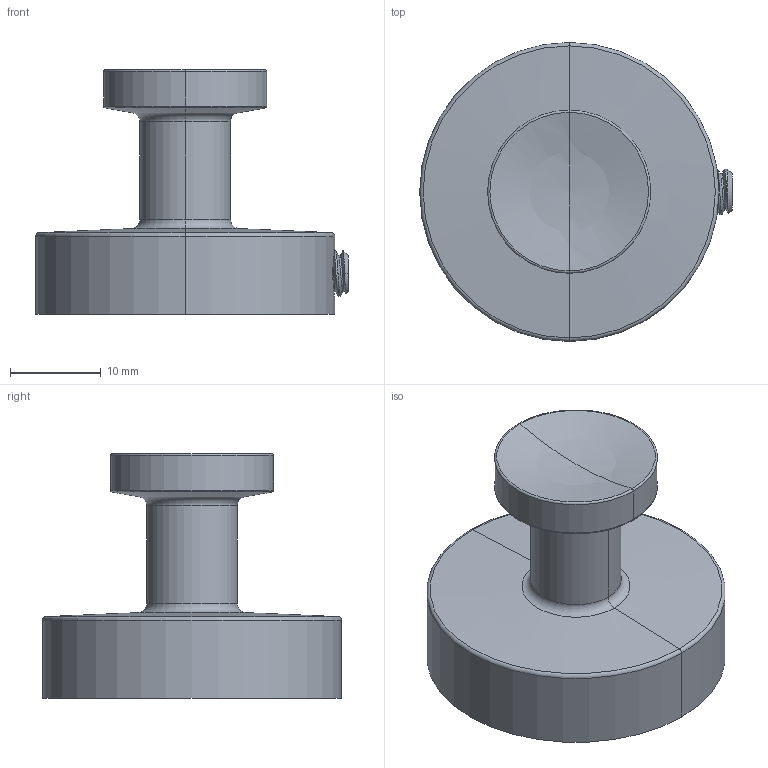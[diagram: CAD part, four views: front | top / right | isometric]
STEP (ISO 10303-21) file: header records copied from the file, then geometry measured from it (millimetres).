
FILE_DESCRIPTION((''),'2;1');
FILE_NAME('48730--00_SUB01_ASM','2024-10-24T13:52:43',('clra1'),(''),'CREO PARAMETRIC BY PTC INC, 2022244','CREO PARAMETRIC BY PTC INC, 2022244','');
FILE_SCHEMA(('CONFIG_CONTROL_DESIGN'));
Length unit declared in the file: millimetre
Products named in the file (4): 46754--; 4675100; 4674100; 48730--00_SUB01_ASM
Assembly tree (3 placements, depth 2):
  48730--00_SUB01_ASM
    46754--
    4675100
    4674100
Bounding box: 34.5 x 33 x 27 mm (x, y, z)
Volume: 7285.9 mm3; surface area: 6665.1 mm2
Topology: 3 solids, 3 shells, 213 faces, 528 edges, 323 vertices
Faces by surface type: plane 84, cylinder 68, bspline 24, torus 18, cone 12, sphere 6, extrusion 1
Entity records: 9786 total; most frequent: CARTESIAN_POINT 4796, ORIENTED_EDGE 1048, DIRECTION 977, EDGE_CURVE 524, AXIS2_PLACEMENT_3D 336, VERTEX_POINT 323, VECTOR 305, LINE 304
